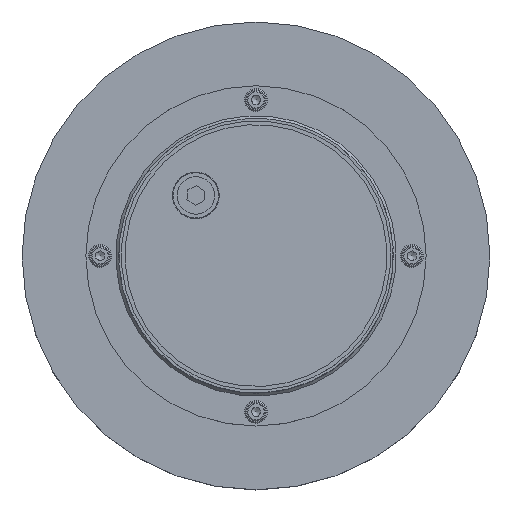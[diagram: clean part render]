
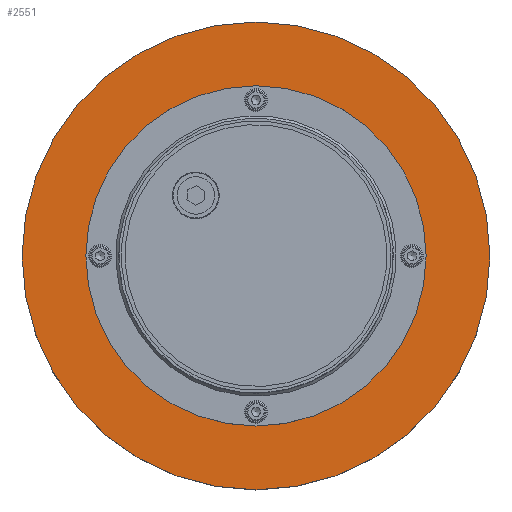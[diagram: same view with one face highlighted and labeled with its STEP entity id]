
A CAD part, top view. The second image highlights one B-rep face of the part: STEP entity #2551.
In plain terms, the highlighted planar face has unit normal (0, 0, 1).
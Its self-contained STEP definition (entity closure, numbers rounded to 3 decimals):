
#161=PLANE('',#2795);
#625=FACE_OUTER_BOUND('',#804,.T.);
#804=EDGE_LOOP('',(#1772));
#984=CIRCLE('',#2796,165.);
#1122=VERTEX_POINT('',#3936);
#1370=EDGE_CURVE('',#1122,#1122,#984,.T.);
#1772=ORIENTED_EDGE('',*,*,#1370,.T.);
#2551=ADVANCED_FACE('',(#625),#161,.T.);
#2795=AXIS2_PLACEMENT_3D('',#3935,#3189,#3190);
#2796=AXIS2_PLACEMENT_3D('',#3937,#3191,#3192);
#3189=DIRECTION('center_axis',(0.,0.,
1.));
#3190=DIRECTION('ref_axis',(-1.,0.,0.));
#3191=DIRECTION('center_axis',(0.,0.,
1.));
#3192=DIRECTION('ref_axis',(-1.,0.,0.));
#3935=CARTESIAN_POINT('Origin',(0.,0.,
45.));
#3936=CARTESIAN_POINT('',(165.,0.,45.));
#3937=CARTESIAN_POINT('Origin',(0.,0.,
45.));
